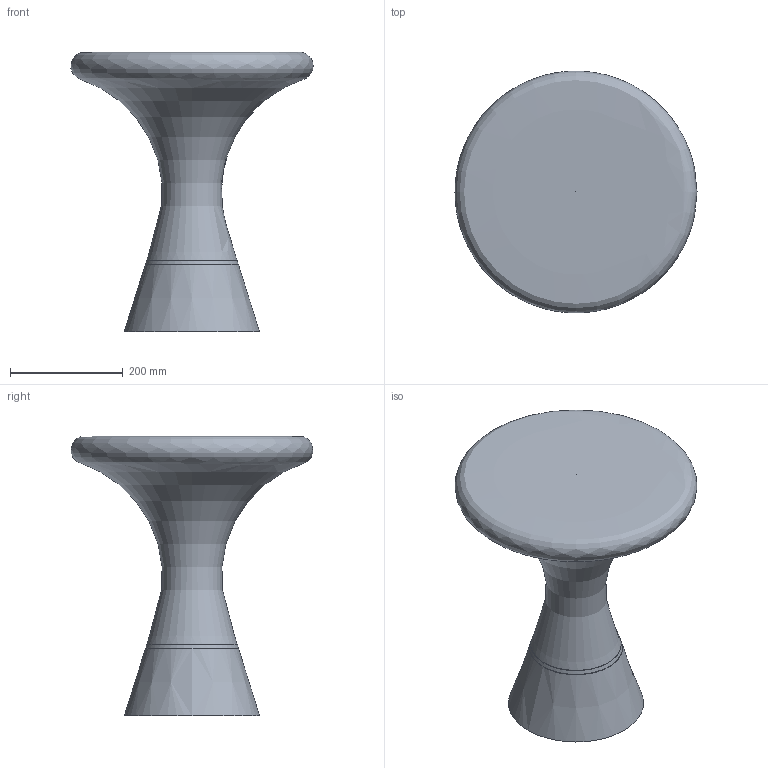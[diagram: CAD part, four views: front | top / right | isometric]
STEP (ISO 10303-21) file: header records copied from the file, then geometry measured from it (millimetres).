
FILE_DESCRIPTION(/* description */ (''),/* implementation_level */ '2;1');
FILE_NAME(/* name */ 'SkLO_TB110_JoinTable_Large',/* time_stamp */ '2024-12-16T11:33:48+01:00',/* author */ (''),/* organization */ (''),/* preprocessor_version */ 'ST-DEVELOPER v16.5',/* originating_system */ 'Rhino 7.34',/* authorisation */ '');
FILE_SCHEMA (('CONFIG_CONTROL_DESIGN'));
Length unit declared in the file: millimetre
Products named in the file (1): Document
Bounding box: 429.52 x 429.14 x 496.88 mm (x, y, z)
Volume: 9526571.7 mm3; surface area: 994755.1 mm2
Topology: 3 solids, 3 shells, 19 faces, 40 edges, 22 vertices
Faces by surface type: bspline 16, cylinder 2, plane 1
Full cylindrical faces by diameter (mm): 125 x2
Entity records: 1041 total; most frequent: CARTESIAN_POINT 738, ORIENTED_EDGE 72, EDGE_CURVE 36, VERTEX_POINT 22, EDGE_LOOP 20, ADVANCED_FACE 19, FACE_OUTER_BOUND 19, B_SPLINE_CURVE_WITH_KNOTS 9
